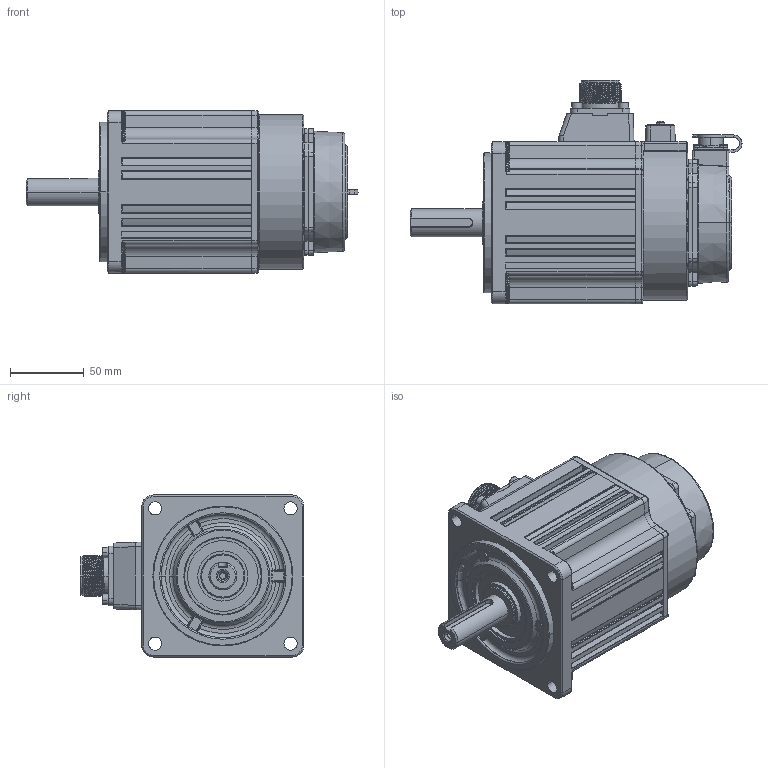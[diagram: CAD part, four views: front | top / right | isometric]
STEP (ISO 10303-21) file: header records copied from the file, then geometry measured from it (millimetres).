
FILE_DESCRIPTION (( 'STEP AP203' ), '1' );
FILE_NAME ('MS6G-110CS(CM)30BZ2-21P5.STEP', '2024-05-13T05:05:55', ( '' ), ( '' ), 'SwSTEP 2.0', 'SolidWorks 2022', '' );
FILE_SCHEMA (( 'CONFIG_CONTROL_DESIGN' ));
Length unit declared in the file: millimetre
Products named in the file (1): MS6G-110CS(CM)30BZ2-21P5
Bounding box: 225.39 x 151.9 x 110 mm (x, y, z)
Surface area: 121521.6 mm2 (no closed solid volume)
Topology: 0 solids, 25 shells, 1012 faces, 3281 edges, 2193 vertices
Faces by surface type: cylinder 387, plane 297, bspline 135, torus 116, cone 65, sphere 12
Entity records: 44975 total; most frequent: CARTESIAN_POINT 17982, DIRECTION 5420, ORIENTED_EDGE 5402, EDGE_CURVE 3263, VERTEX_POINT 2193, AXIS2_PLACEMENT_3D 2084, VECTOR 1252, LINE 1252
